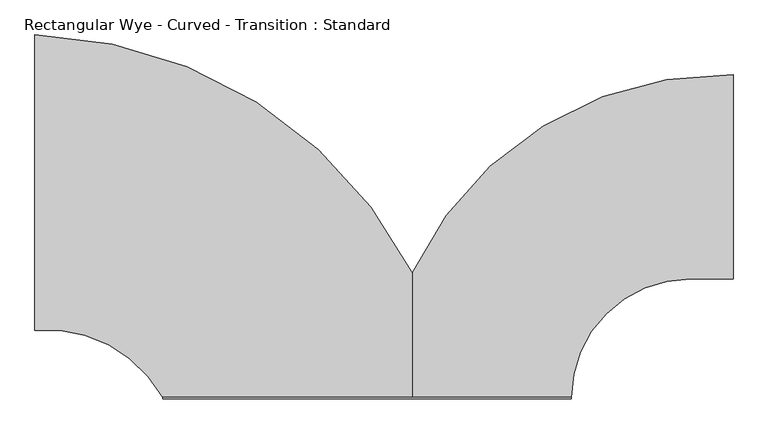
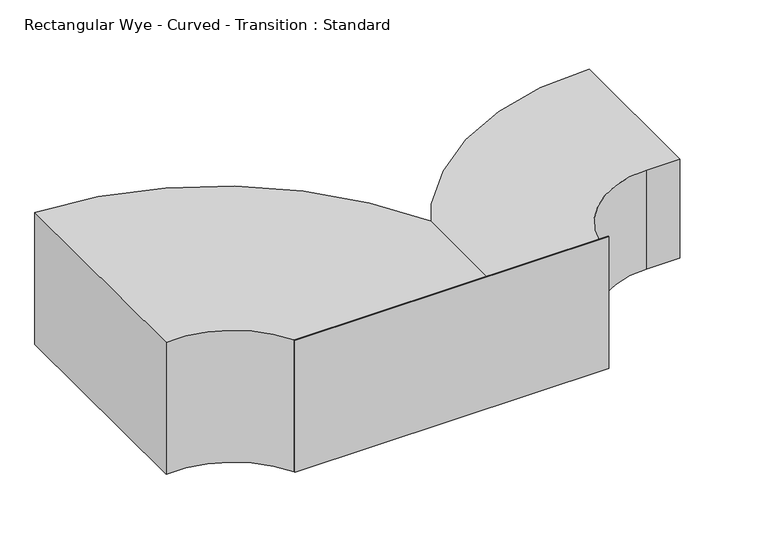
"""IFC4 building model written with IfcOpenShell, lengths in millimetres: duct fitting geometry, Rectangular Wye - Curved - Transition : Standard."""

import ifcopenshell
import ifcopenshell.guid

model = None  # the IFC model being written
_history = None  # IfcOwnerHistory: only IFC2X3 demands one
_inside = {}  # id of a spatial element -> (the spatial element, [elements in it])
_under = {}  # id of a project, library or spatial element -> (it, [spatial elements below it])
_declared = {}  # id of a project -> (the project, [libraries it declares])
_typed = {}  # id of a type object -> (the type object, [elements of that type])
_made_of = {}  # id of a material, layer set ... -> (it, [elements and type objects made of it])


def new_model(schema):
    """Start an empty IFC model of exactly this schema.

    Asked for "IFC4X3", IfcOpenShell would pick the latest addendum, in which some entities
    have other attributes; the version numbers below select the first issue.
    IFC2X3 requires an IfcOwnerHistory on every rooted entity: one is made here for all.
    """
    global model, _history
    if schema == "IFC4X3":
        model = ifcopenshell.file(schema_version=(4, 3, 0, 0))
    else:
        model = ifcopenshell.file(schema=schema)
    _inside.clear()
    _under.clear()
    _declared.clear()
    _typed.clear()
    _made_of.clear()
    _history = None
    if model.schema == "IFC2X3":
        org = make("IfcOrganization", Name="unknown")
        user = make(
            "IfcPersonAndOrganization",
            ThePerson=make("IfcPerson", FamilyName="unknown"),
            TheOrganization=org,
        )
        app = make(
            "IfcApplication",
            ApplicationDeveloper=org,
            Version="unknown",
            ApplicationFullName="unknown",
            ApplicationIdentifier="unknown",
        )
        _history = make(
            "IfcOwnerHistory",
            OwningUser=user,
            OwningApplication=app,
            ChangeAction="ADDED",
            CreationDate=0,
        )
    return model


def make(cls, **values):
    """One entity of the class cls with the attributes given. An attribute that is None is left unset."""
    return model.create_entity(
        cls, **{name: value for name, value in values.items() if value is not None}
    )


def rooted(cls, **values):
    """An entity with a GlobalId (a new one), such as an element, a storey or a relation."""
    return make(cls, GlobalId=ifcopenshell.guid.new(), OwnerHistory=_history, **values)


def si_unit(unit_type, name, prefix=None):
    """IfcSIUnit, for example si_unit("LENGTHUNIT", "METRE", prefix="MILLI")."""
    return make("IfcSIUnit", UnitType=unit_type, Prefix=prefix, Name=name)


def assignment(units):
    """IfcUnitAssignment: the units of a project."""
    return None if units is None else make("IfcUnitAssignment", Units=units)


def point(xyz):
    """IfcCartesianPoint."""
    return None if xyz is None else make("IfcCartesianPoint", Coordinates=xyz)


def direction(xyz):
    """IfcDirection."""
    return None if xyz is None else make("IfcDirection", DirectionRatios=xyz)


def frame(location, z_axis=None, x_axis=None):
    """IfcAxis2Placement3D, a coordinate frame: its origin and axes. An axis left out is left unset."""
    return make(
        "IfcAxis2Placement3D",
        Location=point(location),
        Axis=direction(z_axis),
        RefDirection=direction(x_axis),
    )


def frame_2d(location, x_axis=None):
    """IfcAxis2Placement2D, a coordinate frame in the plane: its origin and x axis."""
    return make(
        "IfcAxis2Placement2D", Location=point(location), RefDirection=direction(x_axis)
    )


def origin():
    """The frame at (0, 0, 0) with its axes left unset."""
    return frame((0.0, 0.0, 0.0))


def origin_with_axes():
    """The frame at (0, 0, 0) with the z axis (0, 0, 1) and the x axis (1, 0, 0) written out."""
    return frame((0.0, 0.0, 0.0), z_axis=(0.0, 0.0, 1.0), x_axis=(1.0, 0.0, 0.0))


def place(relative_to, where):
    """IfcLocalPlacement: puts the frame where relative to a parent placement (None: the world)."""
    return make(
        "IfcLocalPlacement", PlacementRelTo=relative_to, RelativePlacement=where
    )


def context(
    kind, dimensions, precision=None, world=None, true_north=None, identifier=None
):
    """IfcGeometricRepresentationContext, for example the 3D "Model" context."""
    return make(
        "IfcGeometricRepresentationContext",
        ContextIdentifier=identifier,
        ContextType=kind,
        CoordinateSpaceDimension=dimensions,
        Precision=precision,
        WorldCoordinateSystem=world,
        TrueNorth=true_north,
    )


def project(units=None, contexts=None):
    """IfcProject with its units and contexts."""
    return rooted(
        "IfcProject",
        Name="project",
        RepresentationContexts=contexts,
        UnitsInContext=assignment(units),
    )


def spatial(cls, under=None, at=None, **own):
    """A site, building, storey or space (cls), placed at a placement, below another one or the project."""
    s = rooted(cls, ObjectPlacement=at, **own)
    if under is not None:
        _under.setdefault(under.id(), (under, []))[1].append(s)
    return s


def polyline(points):
    """IfcPolyline through the points."""
    return make("IfcPolyline", Points=[point(p) for p in points])


def circle_curve(where, radius):
    """IfcCircle in the frame where."""
    return make("IfcCircle", Position=where, Radius=radius)


def trimmed(basis, trim1, trim2, sense, master):
    """IfcTrimmedCurve: the piece of a basis curve between two trims."""
    return make(
        "IfcTrimmedCurve",
        BasisCurve=basis,
        Trim1=trim1,
        Trim2=trim2,
        SenseAgreement=sense,
        MasterRepresentation=master,
    )


def segment(curve, same_sense, transition):
    """IfcCompositeCurveSegment."""
    return make(
        "IfcCompositeCurveSegment",
        Transition=transition,
        SameSense=same_sense,
        ParentCurve=curve,
    )


def composite_curve(segments, self_intersect=None):
    """IfcCompositeCurve: segments joined end to end."""
    return make("IfcCompositeCurve", Segments=segments, SelfIntersect=self_intersect)


def outline(outer, holes=None, kind="AREA"):
    """IfcArbitraryClosedProfileDef: a profile drawn as a closed curve; with holes, ...WithVoids."""
    if holes is None:
        return make("IfcArbitraryClosedProfileDef", ProfileType=kind, OuterCurve=outer)
    return make(
        "IfcArbitraryProfileDefWithVoids",
        ProfileType=kind,
        OuterCurve=outer,
        InnerCurves=holes,
    )


def extrude(swept, where, along, depth):
    """IfcExtrudedAreaSolid: the profile swept, set in the frame where, extruded along a direction by depth."""
    return make(
        "IfcExtrudedAreaSolid",
        SweptArea=swept,
        Position=where,
        ExtrudedDirection=direction(along),
        Depth=depth,
    )


def shape(context_of_items, identifier, shape_type, items):
    """IfcShapeRepresentation: the items that make up one representation, for example the "Body"."""
    return make(
        "IfcShapeRepresentation",
        ContextOfItems=context_of_items,
        RepresentationIdentifier=identifier,
        RepresentationType=shape_type,
        Items=items,
    )


def source(mapping_origin, context_of_items, identifier, shape_type, items):
    """IfcRepresentationMap: a shape defined once, which mapped items show again and again."""
    return make(
        "IfcRepresentationMap",
        MappingOrigin=mapping_origin,
        MappedRepresentation=shape(context_of_items, identifier, shape_type, items),
    )


def transform(
    local_origin,
    x_axis=None,
    y_axis=None,
    z_axis=None,
    scale=None,
    scale2=None,
    scale3=None,
    uniform=True,
):
    """IfcCartesianTransformationOperator3D, or its non-uniform kind. x_axis, y_axis, z_axis: its Axis1, 2, 3."""
    if uniform:
        return make(
            "IfcCartesianTransformationOperator3D",
            Axis1=direction(x_axis),
            Axis2=direction(y_axis),
            LocalOrigin=point(local_origin),
            Scale=scale,
            Axis3=direction(z_axis),
        )
    return make(
        "IfcCartesianTransformationOperator3DnonUniform",
        Axis1=direction(x_axis),
        Axis2=direction(y_axis),
        LocalOrigin=point(local_origin),
        Scale=scale,
        Axis3=direction(z_axis),
        Scale2=scale2,
        Scale3=scale3,
    )


def mapped(mapping_source, mapping_target):
    """IfcMappedItem: shows the shape of a source again, moved by a transform."""
    return make(
        "IfcMappedItem", MappingSource=mapping_source, MappingTarget=mapping_target
    )


def made_of(thing, what):
    """Note that an element or type object is made of a material, layer set ...; save() writes the relation."""
    if what is not None:
        _made_of.setdefault(what.id(), (what, []))[1].append(thing)
    return thing


def element(
    cls,
    number,
    at=None,
    inside=None,
    cuts=None,
    type_object=None,
    material=None,
    context=None,
    identifier="Body",
    shape_type=None,
    held_by="IfcProductDefinitionShape",
    body=None,
    shapes=None,
    **own,
):
    """One element of the class cls, such as IfcWall. Its Tag is "e" and its number.

    at: its placement. inside: the storey or other place that contains it. cuts: it is an
    opening in that element (IfcRelVoidsElement). A single representation is given by context,
    identifier, shape_type and body (its items); several are given by shapes. held_by: the class
    of the entity that holds the representations. save() writes the other relations.
    """
    e = rooted(cls, Tag="e%d" % number, ObjectPlacement=at, **own)
    if body is not None:
        shapes = [shape(context, identifier, shape_type, body)]
    if shapes is not None:
        e.Representation = make(held_by, Representations=shapes)
    if inside is not None:
        _inside.setdefault(inside.id(), (inside, []))[1].append(e)
    if cuts is not None:
        rooted(
            "IfcRelVoidsElement", RelatingBuildingElement=cuts, RelatedOpeningElement=e
        )
    if type_object is not None:
        _typed.setdefault(type_object.id(), (type_object, []))[1].append(e)
    return made_of(e, material)


def aggregate(whole, parts):
    """IfcRelAggregates: a whole, such as a stair, and the parts it consists of."""
    return rooted("IfcRelAggregates", RelatingObject=whole, RelatedObjects=parts)


def save(model, path):
    """Write the relations noted so far, then the file.

    IfcRelAggregates (storeys below a building ...), IfcRelContainedInSpatialStructure (elements
    in a storey), IfcRelDefinesByType, IfcRelAssociatesMaterial and IfcRelDeclares: one each for
    every whole, place, type object, material and project.
    """
    for whole, parts in _under.values():
        aggregate(whole, parts)
    for where, things in _inside.values():
        rooted(
            "IfcRelContainedInSpatialStructure",
            RelatedElements=things,
            RelatingStructure=where,
        )
    for kind, things in _typed.values():
        rooted("IfcRelDefinesByType", RelatedObjects=things, RelatingType=kind)
    for what, things in _made_of.values():
        rooted("IfcRelAssociatesMaterial", RelatedObjects=things, RelatingMaterial=what)
    for by, libraries in _declared.values():
        rooted("IfcRelDeclares", RelatingContext=by, RelatedDefinitions=libraries)
    model.write(path)


def rectangular_wye_curved_transition_standard_1c022127(model_context):
    return source(origin(), model_context, "Body", "SweptSolid", [
        extrude(outline(composite_curve([segment(polyline([(0.0, -222.25), (0.0, 57.15)]), True, "CONTINUOUS"), segment(trimmed(circle_curve(frame_2d((697.4926008, -269.1063151)), 770.0253966), [point((0.0, 57.15))], [point((717.55, 500.6578125))], False, "CARTESIAN"), True, "CONTINUOUS"), segment(polyline([(717.55, 500.6578125), (717.55, 43.4578125), (621.3078125, 43.4578125)]), True, "CONTINUOUS"), segment(trimmed(circle_curve(frame_2d((621.3078125, -222.25)), 265.7078125), [point((621.3078125, 43.4578125))], [point((355.6, -222.25))], True, "CARTESIAN"), True, "CONTINUOUS"), segment(polyline([(355.6, -222.25), (0.0, -222.25)]), True, "CONTINUOUS")], self_intersect=False)), frame((0.0, 0.0, 50.8), z_axis=(0.0, 0.0, 1.0), x_axis=(1.0, 0.0, 0.0)), (0.0, 0.0, 1.0), 304.8),
        extrude(outline(polyline([(355.6, -225.425), (-558.8, -225.425), (-558.8, -222.25), (355.6, -222.25), (355.6, -225.425)])), origin_with_axes(), (0.0, 0.0, 1.0), 406.4),
        extrude(outline(composite_curve([segment(polyline([(0.0, -222.25), (-558.8, -222.25)]), True, "CONTINUOUS"), segment(trimmed(circle_curve(frame_2d((-818.1486302, -367.3920969)), 297.2001688), [point((-558.8, -222.25))], [point((-844.55, -71.3669156))], True, "CARTESIAN"), True, "CONTINUOUS"), segment(polyline([(-844.55, -71.3669156), (-844.55, 590.066443)]), True, "CONTINUOUS"), segment(trimmed(circle_curve(frame_2d((-873.7570807, -391.8870429)), 982.3877554), [point((-844.55, 590.066443))], [point((0.0, 57.15))], False, "CARTESIAN"), True, "CONTINUOUS"), segment(polyline([(0.0, 57.15), (0.0, -222.25)]), True, "CONTINUOUS")], self_intersect=False)), origin_with_axes(), (0.0, 0.0, 1.0), 406.4),
    ])


if __name__ == "__main__":
    model = new_model("IFC4")
    model_context = context("Model", 3, world=origin())
    ifc_project = project(units=[si_unit("LENGTHUNIT", "METRE", prefix="MILLI")], contexts=[model_context])
    site = spatial("IfcSite", under=ifc_project)
    building = spatial("IfcBuilding", under=site)
    placement = place(None, origin())
    rectangular_wye_curved_transition_standard_shape = rectangular_wye_curved_transition_standard_1c022127(model_context)
    element("IfcDuctFitting", 1, ObjectType="Rectangular Wye - Curved - Transition : Standard", at=placement, inside=building, context=model_context, shape_type="MappedRepresentation", body=[
        mapped(rectangular_wye_curved_transition_standard_shape, transform((0.0, 0.0, 0.0), x_axis=(1.0, 0.0, 0.0), y_axis=(0.0, 1.0, 0.0), z_axis=(0.0, 0.0, 1.0))),
    ])
    save(model, "model.ifc")
